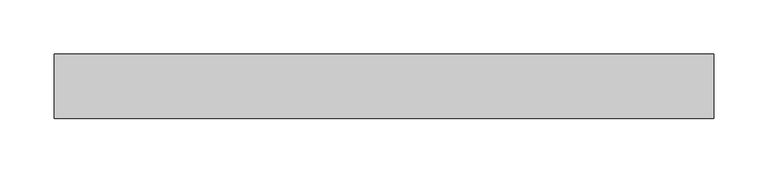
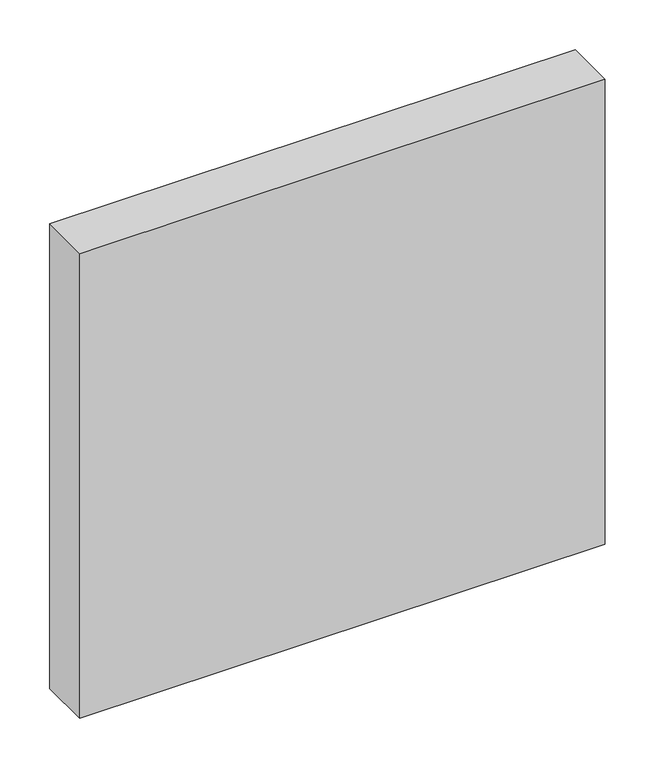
"""IFC4 building model written with IfcOpenShell, lengths in millimetres: plate geometry, Системная панель : Алюкобонд серый."""

from ifc_helpers import new_model, si_unit, origin, origin_with_axes, place, context, project, spatial, polyline, outline, extrude, source, transform, mapped, element, save


def plate_32ce3ed2(model_context):
    return source(origin(), model_context, "Body", "SweptSolid", [
        extrude(outline(polyline([(305.0, -10.5), (-305.0, -10.5), (-305.0, 49.5), (305.0, 49.5), (305.0, -10.5)])), origin_with_axes(), (0.0, 0.0, 1.0), 570.0),
    ])


if __name__ == "__main__":
    model = new_model("IFC4")
    model_context = context("Model", 3, world=origin())
    ifc_project = project(units=[si_unit("LENGTHUNIT", "METRE", prefix="MILLI")], contexts=[model_context])
    site = spatial("IfcSite", under=ifc_project)
    building = spatial("IfcBuilding", under=site)
    placement = place(None, origin())
    plate_shape = plate_32ce3ed2(model_context)
    element("IfcPlate", 1, ObjectType="Системная панель : Алюкобонд серый", at=placement, inside=building, context=model_context, shape_type="MappedRepresentation", body=[
        mapped(plate_shape, transform((0.0, 0.0, 0.0), x_axis=(1.0, 0.0, 0.0), y_axis=(0.0, 1.0, 0.0), z_axis=(0.0, 0.0, 1.0))),
    ])
    save(model, "model.ifc")
